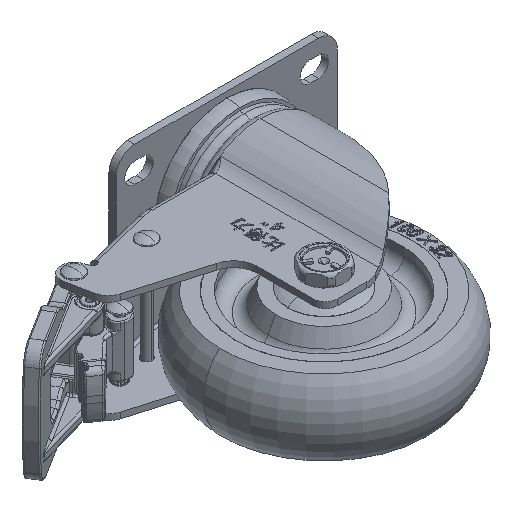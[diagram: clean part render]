
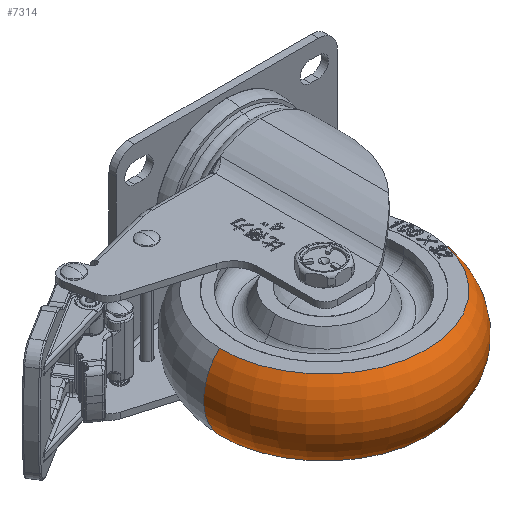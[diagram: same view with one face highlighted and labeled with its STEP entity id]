
A CAD part, isometric view. The second image highlights one B-rep face of the part: STEP entity #7314.
In plain terms, the highlighted toroidal (fillet/blend) face has major radius 27.058 mm and minor radius 22.942 mm.
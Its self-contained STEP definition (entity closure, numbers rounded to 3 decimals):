
#7314 = ADVANCED_FACE ( 'NONE', ( #40437 ), #40436, .T. ) ;
#7315 = ORIENTED_EDGE ( 'NONE', *, *, #7316, .T. ) ;
#7316 = EDGE_CURVE ( 'NONE', #7317, #7318, #40435, .T. ) ;
#7317 = VERTEX_POINT ( 'NONE', #40426 ) ;
#7318 = VERTEX_POINT ( 'NONE', #40425 ) ;
#7319 = ORIENTED_EDGE ( 'NONE', *, *, #7320, .T. ) ;
#7320 = EDGE_CURVE ( 'NONE', #7318, #7321, #40424, .T. ) ;
#7321 = VERTEX_POINT ( 'NONE', #40419 ) ;
#7322 = ORIENTED_EDGE ( 'NONE', *, *, #7323, .F. ) ;
#7323 = EDGE_CURVE ( 'NONE', #7324, #7321, #40418, .T. ) ;
#7324 = VERTEX_POINT ( 'NONE', #40475 ) ;
#7325 = ORIENTED_EDGE ( 'NONE', *, *, #7326, .F. ) ;
#7326 = EDGE_CURVE ( 'NONE', #7317, #7324, #40474, .T. ) ;
#7342 = EDGE_LOOP ( 'NONE', ( #7315, #7319, #7322, #7325 ) ) ;
#40414 = DIRECTION ( 'NONE',  ( 1., 0., 0. ) ) ;
#40415 = DIRECTION ( 'NONE',  ( 0., -1., 0. ) ) ;
#40416 = CARTESIAN_POINT ( 'NONE',  ( 0., -16., 0. ) ) ;
#40417 = AXIS2_PLACEMENT_3D ( 'NONE', #40416, #40415, #40414 ) ;
#40418 = CIRCLE ( 'NONE', #40417, 43.5 ) ;
#40419 = CARTESIAN_POINT ( 'NONE',  ( -43.5, -16., 0. ) ) ;
#40420 = DIRECTION ( 'NONE',  ( 1., 0., 0. ) ) ;
#40421 = DIRECTION ( 'NONE',  ( 0., 0., 1. ) ) ;
#40422 = CARTESIAN_POINT ( 'NONE',  ( -27.058, 0., 0. ) ) ;
#40423 = AXIS2_PLACEMENT_3D ( 'NONE', #40422, #40421, #40420 ) ;
#40424 = CIRCLE ( 'NONE', #40423, 22.942 ) ;
#40425 = CARTESIAN_POINT ( 'NONE',  ( -43.5, 16., 0. ) ) ;
#40426 = CARTESIAN_POINT ( 'NONE',  ( 43.5, 16., 0. ) ) ;
#40427 = DIRECTION ( 'NONE',  ( 1., 0., 0. ) ) ;
#40428 = DIRECTION ( 'NONE',  ( 0., -1., 0. ) ) ;
#40429 = CARTESIAN_POINT ( 'NONE',  ( 0., 16., 0. ) ) ;
#40430 = AXIS2_PLACEMENT_3D ( 'NONE', #40429, #40428, #40427 ) ;
#40431 = DIRECTION ( 'NONE',  ( 1., 0., 0. ) ) ;
#40432 = DIRECTION ( 'NONE',  ( 0., -1., 0. ) ) ;
#40433 = CARTESIAN_POINT ( 'NONE',  ( 0., 0., 0. ) ) ;
#40434 = AXIS2_PLACEMENT_3D ( 'NONE', #40433, #40432, #40431 ) ;
#40435 = CIRCLE ( 'NONE', #40430, 43.5 ) ;
#40436 = TOROIDAL_SURFACE ( 'NONE', #40434, 27.058, 22.942 ) ;
#40437 = FACE_OUTER_BOUND ( 'NONE', #7342, .T. ) ;
#40470 = DIRECTION ( 'NONE',  ( -1., 0., 0. ) ) ;
#40471 = DIRECTION ( 'NONE',  ( 0., 0., -1. ) ) ;
#40472 = CARTESIAN_POINT ( 'NONE',  ( 27.058, 0., 0. ) ) ;
#40473 = AXIS2_PLACEMENT_3D ( 'NONE', #40472, #40471, #40470 ) ;
#40474 = CIRCLE ( 'NONE', #40473, 22.942 ) ;
#40475 = CARTESIAN_POINT ( 'NONE',  ( 43.5, -16., 0. ) ) ;
